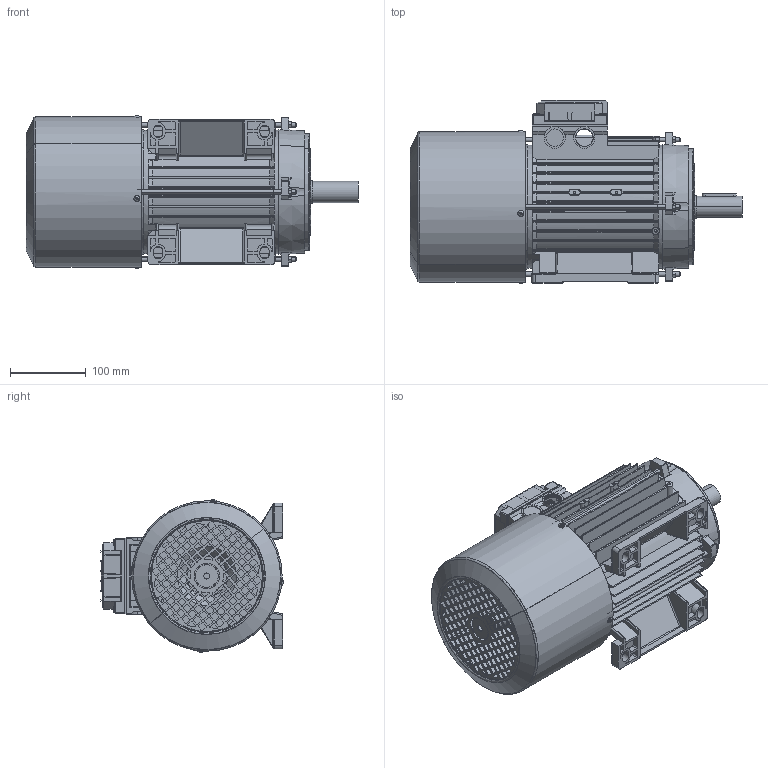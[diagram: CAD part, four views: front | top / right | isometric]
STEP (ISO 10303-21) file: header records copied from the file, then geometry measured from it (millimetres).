
FILE_DESCRIPTION (( 'STEP AP214' ), '1' );
FILE_NAME ('M14GA0013.STEP', '2019-09-18T13:32:01', ( '' ), ( '' ), 'SwSTEP 2.0', 'SolidWorks 2018', '' );
FILE_SCHEMA (( 'AUTOMOTIVE_DESIGN' ));
Length unit declared in the file: millimetre
Products named in the file (14): M14GA0013; Coperchio per Scatola Singola 90 - 100 - 112 con viti; Guarnizione Coperchio Semplice Scatola BA 90 100 112 - DDAL0094; Vite per coperchio morsettiera; Coperchio per Scatola Singola 90 - 100 - 112; Dado M5; Scudo Lato Comando B3 BA-BM 100 - DEAD0094; Vite testa rotonda M3; Tirante SM 100; Chiavetta 100-112; Albero BM 100; Cuffia BM 100- DEAL0097; Scudo Lato Freno P1 BM 100 - DEAQ0197; Carcassa 100 L B3
Assembly tree (25 placements, depth 3):
  M14GA0013
    Carcassa 100 L B3
    Scudo Lato Freno P1 BM 100 - DEAQ0197
    Cuffia BM 100- DEAL0097
    Albero BM 100
    Chiavetta 100-112
    Tirante SM 100  x4
    Vite testa rotonda M3  x4
    Scudo Lato Comando B3 BA-BM 100 - DEAD0094
    Dado M5  x4
    Coperchio per Scatola Singola 90 - 100 - 112 con viti
      Coperchio per Scatola Singola 90 - 100 - 112
      Vite per coperchio morsettiera  x4
      Guarnizione Coperchio Semplice Scatola BA 90 100 112 - DDAL0094
Bounding box: 437 x 240.81 x 201.62 mm (x, y, z)
Volume: 1739696.2 mm3; surface area: 977095.1 mm2
Topology: 28 solids, 28 shells, 3548 faces, 9811 edges, 6360 vertices
Faces by surface type: plane 1435, cylinder 1390, torus 337, cone 248, bspline 126, sphere 12
Entity records: 112071 total; most frequent: CARTESIAN_POINT 31744, ORIENTED_EDGE 17208, DIRECTION 16081, EDGE_CURVE 8604, AXIS2_PLACEMENT_3D 5807, VERTEX_POINT 5622, VECTOR 4467, LINE 4467
